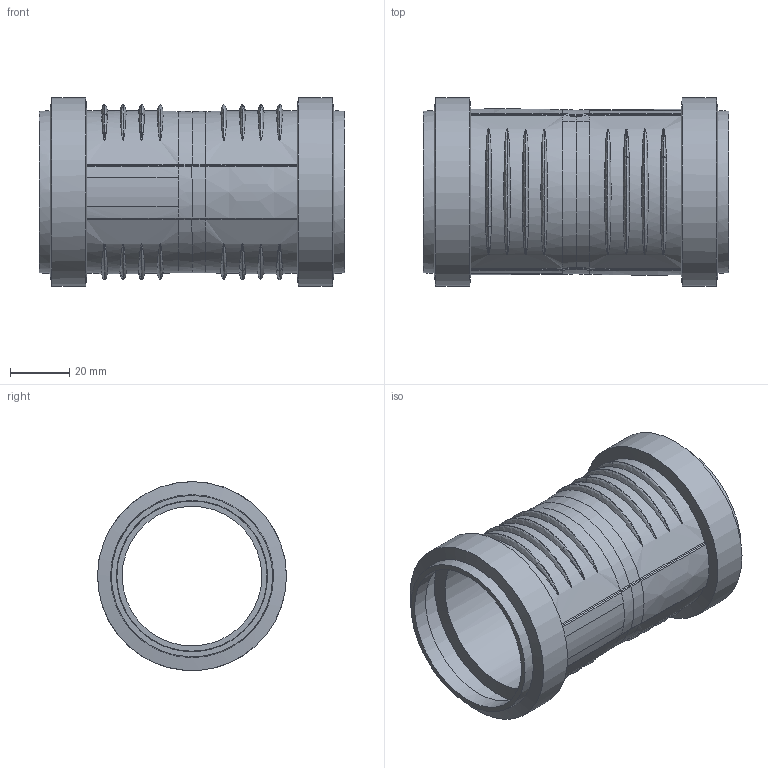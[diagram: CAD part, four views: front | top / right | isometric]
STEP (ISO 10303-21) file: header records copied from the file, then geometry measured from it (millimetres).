
FILE_DESCRIPTION(/* description */ (''),/* implementation_level */ '2;1');
FILE_NAME(/* name */ 'C:\Planerdaten\Export PLA\390.216.14.1\stp\390216.stp',/* time_stamp */ '2022-03-31T11:54:49+02:00',/* author */ ('JANAN'),/* organization */ (''),/* preprocessor_version */ 'ST-DEVELOPER v16.13',/* originating_system */ 'Autodesk Inventor 2018',/* authorisation */ '');
FILE_SCHEMA (('AUTOMOTIVE_DESIGN { 1 0 10303 214 3 1 1 }'));
Length unit declared in the file: millimetre
Products named in the file (1): tmp7969.tmp
Bounding box: 103 x 63.7 x 63.61 mm (x, y, z)
Volume: 43440.8 mm3; surface area: 43689.6 mm2
Topology: 1 solids, 1 shells, 139 faces, 317 edges, 200 vertices
Faces by surface type: bspline 118, cylinder 9, cone 8, plane 4
Full cylindrical faces by diameter (mm): 47.1 x1, 50.7 x2, 51 x2, 60.1 x2, 63.7 x2
Entity records: 16310 total; most frequent: CARTESIAN_POINT 13492, ORIENTED_EDGE 600, DIRECTION 440, EDGE_CURVE 300, AXIS2_PLACEMENT_3D 208, VERTEX_POINT 202, EDGE_LOOP 180, STYLED_ITEM 140
